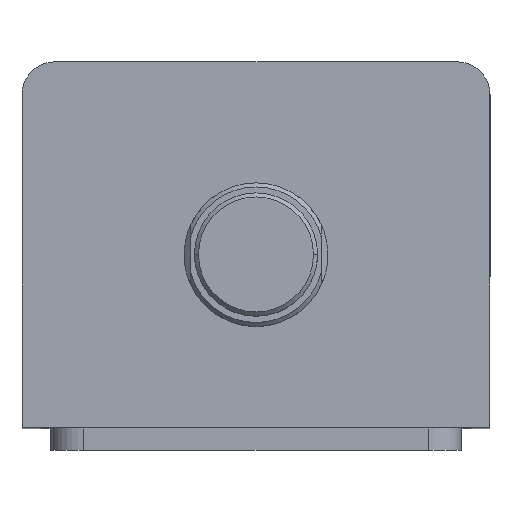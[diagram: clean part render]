
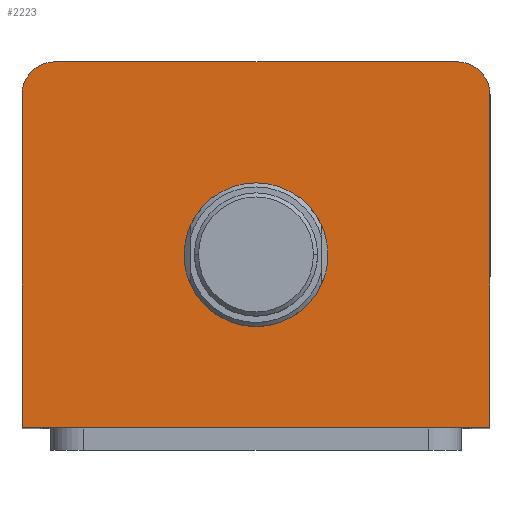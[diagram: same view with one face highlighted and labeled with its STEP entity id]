
A CAD part, top view. The second image highlights one B-rep face of the part: STEP entity #2223.
In plain terms, the highlighted planar face has unit normal (0, 0, 1).
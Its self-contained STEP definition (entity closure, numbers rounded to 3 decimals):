
#208 = EDGE_LOOP ( 'NONE', ( #725, #724 ) ) ;
#210 = EDGE_LOOP ( 'NONE', ( #723, #722, #721, #720, #719, #718 ) ) ;
#718 = ORIENTED_EDGE ( 'NONE', *, *, #2487, .T. ) ;
#719 = ORIENTED_EDGE ( 'NONE', *, *, #2457, .T. ) ;
#720 = ORIENTED_EDGE ( 'NONE', *, *, #2442, .T. ) ;
#721 = ORIENTED_EDGE ( 'NONE', *, *, #2500, .T. ) ;
#722 = ORIENTED_EDGE ( 'NONE', *, *, #2496, .T. ) ;
#723 = ORIENTED_EDGE ( 'NONE', *, *, #2474, .T. ) ;
#724 = ORIENTED_EDGE ( 'NONE', *, *, #2433, .F. ) ;
#725 = ORIENTED_EDGE ( 'NONE', *, *, #2436, .F. ) ;
#1081 = VERTEX_POINT ( 'NONE', #3458 ) ;
#1111 = VERTEX_POINT ( 'NONE', #2016 ) ;
#1138 = VERTEX_POINT ( 'NONE', #1928 ) ;
#1145 = VERTEX_POINT ( 'NONE', #1907 ) ;
#1152 = VERTEX_POINT ( 'NONE', #1880 ) ;
#1166 = VERTEX_POINT ( 'NONE', #1836 ) ;
#1169 = VERTEX_POINT ( 'NONE', #1864 ) ;
#1170 = VERTEX_POINT ( 'NONE', #1833 ) ;
#1291 = FACE_BOUND ( 'NONE', #208, .T. ) ;
#1307 = FACE_OUTER_BOUND ( 'NONE', #210, .T. ) ;
#1619 = CIRCLE ( 'NONE', #2733, 17.5 ) ;
#1624 = CIRCLE ( 'NONE', #2735, 17.5 ) ;
#1628 = LINE ( 'NONE', #2998, #1635 ) ;
#1635 = VECTOR ( 'NONE', #2976, 1000. ) ;
#1662 = LINE ( 'NONE', #2940, #1665 ) ;
#1665 = VECTOR ( 'NONE', #2938, 1000. ) ;
#1691 = LINE ( 'NONE', #2886, #1694 ) ;
#1694 = VECTOR ( 'NONE', #2885, 1000. ) ;
#1707 = CIRCLE ( 'NONE', #2751, 8. ) ;
#1720 = CIRCLE ( 'NONE', #2758, 8. ) ;
#1726 = LINE ( 'NONE', #3192, #1729 ) ;
#1729 = VECTOR ( 'NONE', #3190, 1000. ) ;
#1833 = CARTESIAN_POINT ( 'NONE',  ( -57., -44.5, 182. ) ) ;
#1836 = CARTESIAN_POINT ( 'NONE',  ( -57., 36.5, 182. ) ) ;
#1841 = DIRECTION ( 'NONE',  ( 1., 0., 0. ) ) ;
#1842 = DIRECTION ( 'NONE',  ( 0., 0., 1. ) ) ;
#1846 = CARTESIAN_POINT ( 'NONE',  ( 0., 0., 182. ) ) ;
#1848 = PLANE ( 'NONE',  #2597 ) ;
#1864 = CARTESIAN_POINT ( 'NONE',  ( -17.5, -2.5, 182. ) ) ;
#1880 = CARTESIAN_POINT ( 'NONE',  ( -49., 44.5, 182. ) ) ;
#1907 = CARTESIAN_POINT ( 'NONE',  ( 17.5, -2.5, 182. ) ) ;
#1928 = CARTESIAN_POINT ( 'NONE',  ( 57., -44.5, 182. ) ) ;
#2016 = CARTESIAN_POINT ( 'NONE',  ( 57., 36.5, 182. ) ) ;
#2223 = ADVANCED_FACE ( 'NONE', ( #1291, #1307 ), #1848, .T. ) ;
#2433 = EDGE_CURVE ( 'NONE', #1169, #1145, #1619, .T. ) ;
#2436 = EDGE_CURVE ( 'NONE', #1145, #1169, #1624, .T. ) ;
#2442 = EDGE_CURVE ( 'NONE', #1170, #1138, #1628, .T. ) ;
#2457 = EDGE_CURVE ( 'NONE', #1138, #1111, #1662, .T. ) ;
#2474 = EDGE_CURVE ( 'NONE', #1081, #1152, #1691, .T. ) ;
#2487 = EDGE_CURVE ( 'NONE', #1111, #1081, #1707, .T. ) ;
#2496 = EDGE_CURVE ( 'NONE', #1152, #1166, #1720, .T. ) ;
#2500 = EDGE_CURVE ( 'NONE', #1166, #1170, #1726, .T. ) ;
#2597 = AXIS2_PLACEMENT_3D ( 'NONE', #1846, #1842, #1841 ) ;
#2733 = AXIS2_PLACEMENT_3D ( 'NONE', #3005, #3004, #3003 ) ;
#2735 = AXIS2_PLACEMENT_3D ( 'NONE', #2997, #2996, #2995 ) ;
#2751 = AXIS2_PLACEMENT_3D ( 'NONE', #3234, #3233, #3232 ) ;
#2758 = AXIS2_PLACEMENT_3D ( 'NONE', #3202, #3201, #3200 ) ;
#2885 = DIRECTION ( 'NONE',  ( -1., 0., 0. ) ) ;
#2886 = CARTESIAN_POINT ( 'NONE',  ( -57., 44.5, 182. ) ) ;
#2938 = DIRECTION ( 'NONE',  ( 0., 1., 0. ) ) ;
#2940 = CARTESIAN_POINT ( 'NONE',  ( 57., 44.5, 182. ) ) ;
#2976 = DIRECTION ( 'NONE',  ( 1., 0., 0. ) ) ;
#2995 = DIRECTION ( 'NONE',  ( 1., 0., 0. ) ) ;
#2996 = DIRECTION ( 'NONE',  ( 0., 0., 1. ) ) ;
#2997 = CARTESIAN_POINT ( 'NONE',  ( 0., -2.5, 182. ) ) ;
#2998 = CARTESIAN_POINT ( 'NONE',  ( -57., -44.5, 182. ) ) ;
#3003 = DIRECTION ( 'NONE',  ( 1., 0., 0. ) ) ;
#3004 = DIRECTION ( 'NONE',  ( 0., 0., 1. ) ) ;
#3005 = CARTESIAN_POINT ( 'NONE',  ( 0., -2.5, 182. ) ) ;
#3190 = DIRECTION ( 'NONE',  ( 0., -1., 0. ) ) ;
#3192 = CARTESIAN_POINT ( 'NONE',  ( -57., 44.5, 182. ) ) ;
#3200 = DIRECTION ( 'NONE',  ( 1., 0., 0. ) ) ;
#3201 = DIRECTION ( 'NONE',  ( 0., 0., 1. ) ) ;
#3202 = CARTESIAN_POINT ( 'NONE',  ( -49., 36.5, 182. ) ) ;
#3232 = DIRECTION ( 'NONE',  ( 1., 0., 0. ) ) ;
#3233 = DIRECTION ( 'NONE',  ( 0., 0., 1. ) ) ;
#3234 = CARTESIAN_POINT ( 'NONE',  ( 49., 36.5, 182. ) ) ;
#3458 = CARTESIAN_POINT ( 'NONE',  ( 49., 44.5, 182. ) ) ;
